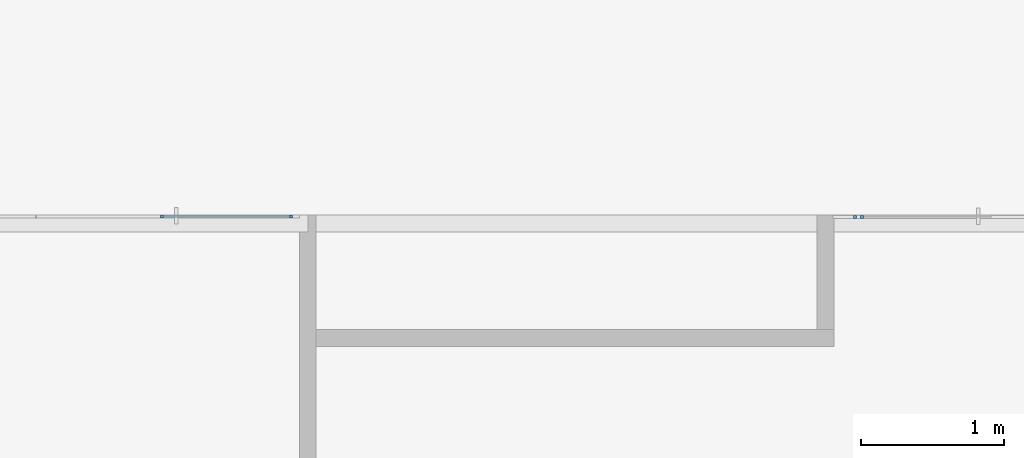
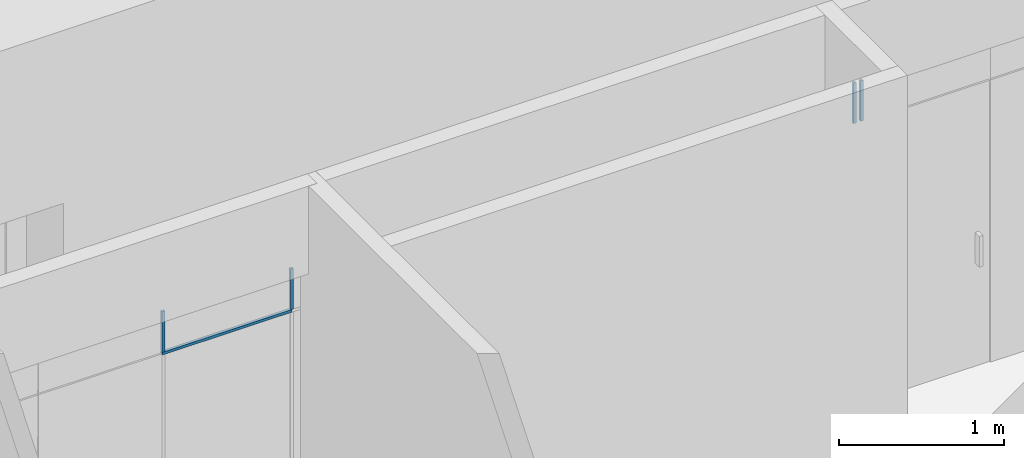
# One storey, part 7 of 66: 5 members, 2 elements without a shape of their own.
"""IFC2X3 building model written with IfcOpenShell, lengths in millimetres."""

from ifc_helpers import new_model, entity, si_unit, converted_unit, derived_unit, direction, frame, origin, origin_2d_with_axis, place, context, subcontext, project, spatial, rectangle, extrude, source, transform, mapped, material, type_object, type_shapes, element, aggregate, save


model = new_model("IFC2X3")

# Units and contexts
model_context = context("Model", 3, precision=0.01, world=origin(), true_north=direction((6.12303176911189e-17, 1.0)))
body_context = subcontext(model_context, "Body", "Model", "MODEL_VIEW")
ifc_project = project(units=[si_unit("LENGTHUNIT", "METRE", prefix="MILLI"), si_unit("AREAUNIT", "SQUARE_METRE"), si_unit("VOLUMEUNIT", "CUBIC_METRE"), converted_unit("PLANEANGLEUNIT", "DEGREE", entity("IfcRatioMeasure", 0.0174532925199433), si_unit("PLANEANGLEUNIT", "RADIAN"), dimensions=[0, 0, 0, 0, 0, 0, 0]), si_unit("MASSUNIT", "GRAM", prefix="KILO"), derived_unit("MASSDENSITYUNIT", [(si_unit("MASSUNIT", "GRAM", prefix="KILO"), 1), (si_unit("LENGTHUNIT", "METRE"), -3)]), si_unit("TIMEUNIT", "SECOND"), si_unit("FREQUENCYUNIT", "HERTZ"), si_unit("THERMODYNAMICTEMPERATUREUNIT", "DEGREE_CELSIUS"), derived_unit("THERMALTRANSMITTANCEUNIT", [(si_unit("MASSUNIT", "GRAM", prefix="KILO"), 1), (si_unit("THERMODYNAMICTEMPERATUREUNIT", "KELVIN"), -1), (si_unit("TIMEUNIT", "SECOND"), -3)]), derived_unit("VOLUMETRICFLOWRATEUNIT", [(si_unit("LENGTHUNIT", "METRE"), 3), (si_unit("TIMEUNIT", "SECOND"), -1)]), si_unit("ELECTRICCURRENTUNIT", "AMPERE"), si_unit("ELECTRICVOLTAGEUNIT", "VOLT"), si_unit("POWERUNIT", "WATT"), si_unit("FORCEUNIT", "NEWTON", prefix="KILO"), si_unit("ILLUMINANCEUNIT", "LUX"), si_unit("LUMINOUSFLUXUNIT", "LUMEN"), si_unit("LUMINOUSINTENSITYUNIT", "CANDELA"), derived_unit("USERDEFINED", [(si_unit("MASSUNIT", "GRAM", prefix="KILO"), -1), (si_unit("LENGTHUNIT", "METRE"), -2), (si_unit("TIMEUNIT", "SECOND"), 3), (si_unit("LUMINOUSFLUXUNIT", "LUMEN"), 1)]), derived_unit("LINEARVELOCITYUNIT", [(si_unit("LENGTHUNIT", "METRE"), 1), (si_unit("TIMEUNIT", "SECOND"), -1)]), si_unit("PRESSUREUNIT", "PASCAL"), derived_unit("USERDEFINED", [(si_unit("LENGTHUNIT", "METRE"), -2), (si_unit("MASSUNIT", "GRAM", prefix="KILO"), 1), (si_unit("TIMEUNIT", "SECOND"), -2)])], contexts=[model_context])

# Site, building, storey
site_placement = place(None, frame((-151.875543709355, 2715.0, 0.0)))
site = spatial("IfcSite", under=ifc_project, at=site_placement, Name="Surface", CompositionType="ELEMENT")
building_placement = place(site_placement, origin())
building = spatial("IfcBuilding", under=site, at=building_placement, CompositionType="ELEMENT")
storey_placement = place(building_placement, frame((0.0, 0.0, 3350.0)))
storey = spatial("IfcBuildingStorey", under=building, at=storey_placement, Name="2 korrus", CompositionType="ELEMENT", Elevation=3350.00000000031)

# Curtain wall, members
curtain_wall_type_1 = type_object("IfcCurtainWallType", Name="Curtain Wall:Klaassein KLS-08", PredefinedType="NOTDEFINED")
curtain_wall_1_placement = place(storey_placement, frame((0.0, 0.0, -3350.0)))
curtain_wall_1 = element("IfcCurtainWall", 1, at=curtain_wall_1_placement, inside=storey, type_object=curtain_wall_type_1, Name="Curtain Wall:Klaassein KLS-08", ObjectType="Curtain Wall:Klaassein KLS-08")
ifc_material = material(Name="__Uks_hele tamm")
member_type_1 = type_object("IfcMemberType", Name="20 x 20mm", PredefinedType="MEMBER")
shared_shape_1 = source(origin(), body_context, "Body", "SweptSolid", [
    extrude(rectangle(XDim=20.0, YDim=20.0, at=origin_2d_with_axis()), frame((0.0, 0.0, -300.0), z_axis=(0.0, 0.0, 1.0), x_axis=(0.0, -1.0, 0.0)), (0.0, 0.0, 1.0), 299.999999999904),
])
type_shapes(member_type_1, [shared_shape_1])
member_1_placement = place(storey_placement, frame((8539.56472640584, 4355.04493399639, 2100.0), z_axis=(0.0, 0.0, -1.0), x_axis=(1.0, 0.0, 0.0)))
member_1 = element("IfcMember", 2, at=member_1_placement, type_object=member_type_1, material=ifc_material, Name="Rectangular Mullion:20 x 20mm", ObjectType="20 x 20mm", context=body_context, shape_type="MappedRepresentation", body=[
    mapped(shared_shape_1, transform((0.0, 0.0, 0.0), scale=1.0)),
])
member_2_placement = place(storey_placement, frame((9439.56472640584, 4355.0449339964, 2100.0), z_axis=(0.0, 0.0, -1.0), x_axis=(1.0, 0.0, 0.0)))
member_2 = element("IfcMember", 3, at=member_2_placement, type_object=member_type_1, material=ifc_material, Name="Rectangular Mullion:20 x 20mm", ObjectType="20 x 20mm", context=body_context, shape_type="MappedRepresentation", body=[
    mapped(shared_shape_1, transform((0.0, 0.0, 0.0), scale=1.0)),
])
member_type_2 = type_object("IfcMemberType", Name="20 x 20mm", PredefinedType="MEMBER")
shared_shape_2 = source(origin(), body_context, "Body", "SweptSolid", [
    extrude(rectangle(XDim=20.0, YDim=20.0, at=origin_2d_with_axis()), frame((0.0, 0.0, -910.0), z_axis=(0.0, 0.0, 1.0), x_axis=(0.0, -1.0, 0.0)), (0.0, 0.0, 1.0), 909.999999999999),
])
type_shapes(member_type_2, [shared_shape_2])
member_3_placement = place(storey_placement, frame((9439.56472640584, 4355.0449339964, 2090.0), z_axis=(1.0, 0.0, 0.0), x_axis=(0.0, 0.0, 1.0)))
member_3 = element("IfcMember", 4, at=member_3_placement, type_object=member_type_2, material=ifc_material, Name="Rectangular Mullion:20 x 20mm", ObjectType="20 x 20mm", context=body_context, shape_type="MappedRepresentation", body=[
    mapped(shared_shape_2, transform((0.0, 0.0, 0.0), scale=1.0)),
])
aggregate(curtain_wall_1, [member_1, member_3, member_2])

curtain_wall_type_2 = type_object("IfcCurtainWallType", Name="Curtain Wall:Klaassein KLS-09", PredefinedType="NOTDEFINED")
curtain_wall_2_placement = place(storey_placement, frame((0.0, 0.0, -3350.0)))
curtain_wall_2 = element("IfcCurtainWall", 5, at=curtain_wall_2_placement, inside=storey, type_object=curtain_wall_type_2, Name="Curtain Wall:Klaassein KLS-09", ObjectType="Curtain Wall:Klaassein KLS-09")
member_type_3 = type_object("IfcMemberType", Name="20 x 20mm", PredefinedType="MEMBER")
shared_shape_3 = source(origin(), body_context, "Body", "SweptSolid", [
    extrude(rectangle(XDim=20.0, YDim=20.0, at=origin_2d_with_axis()), frame((0.0, 0.0, -300.0), z_axis=(0.0, 0.0, 1.0), x_axis=(0.0, -1.0, 0.0)), (0.0, 0.0, 1.0), 299.999999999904),
])
type_shapes(member_type_3, [shared_shape_3])
member_4_placement = place(storey_placement, frame((13378.5552877, 4352.04493399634, 2100.0), z_axis=(0.0, 0.0, -1.0), x_axis=(1.0, 0.0, 0.0)))
member_4 = element("IfcMember", 6, at=member_4_placement, type_object=member_type_3, material=ifc_material, Name="Rectangular Mullion:20 x 20mm", ObjectType="20 x 20mm", context=body_context, shape_type="MappedRepresentation", body=[
    mapped(shared_shape_3, transform((0.0, 0.0, 0.0), scale=1.0)),
])
member_5_placement = place(storey_placement, frame((13428.5552877, 4352.04493399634, 2100.0), z_axis=(0.0, 0.0, -1.0), x_axis=(1.0, 0.0, 0.0)))
member_5 = element("IfcMember", 7, at=member_5_placement, type_object=member_type_3, material=ifc_material, Name="Rectangular Mullion:20 x 20mm", ObjectType="20 x 20mm", context=body_context, shape_type="MappedRepresentation", body=[
    mapped(shared_shape_3, transform((0.0, 0.0, 0.0), scale=1.0)),
])
aggregate(curtain_wall_2, [member_4, member_5])

save(model, "model.ifc")
